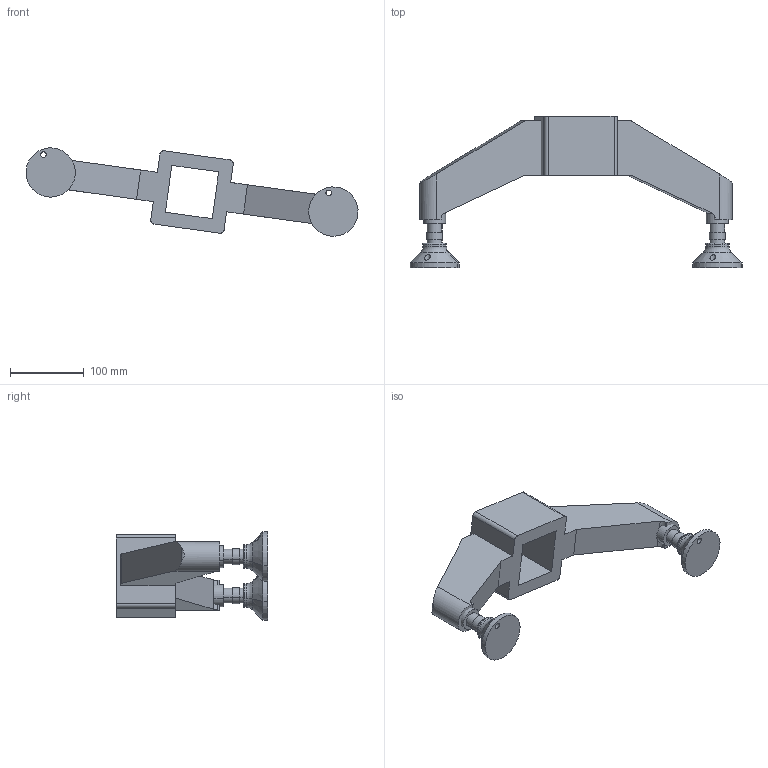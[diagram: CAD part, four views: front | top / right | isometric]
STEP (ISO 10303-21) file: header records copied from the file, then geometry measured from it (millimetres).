
FILE_DESCRIPTION (( 'STEP AP214' ), '1' );
FILE_NAME ('FBFT 64BP.step', '2017-04-05T08:02:53', ( '' ), ( '' ), 'SwSTEP 2.0', 'SolidWorks 2015', '' );
FILE_SCHEMA (( 'AUTOMOTIVE_DESIGN' ));
Length unit declared in the file: millimetre
Products named in the file (1): FBFT 64BP
Bounding box: 448.95 x 205 x 119.42 mm (x, y, z)
Volume: 1476602.5 mm3; surface area: 160323.9 mm2
Topology: 3 solids, 3 shells, 89 faces, 210 edges, 135 vertices
Faces by surface type: cylinder 41, plane 36, torus 8, cone 4
Entity records: 2805 total; most frequent: CARTESIAN_POINT 633, DIRECTION 465, ORIENTED_EDGE 420, EDGE_CURVE 210, AXIS2_PLACEMENT_3D 177, VERTEX_POINT 135, VECTOR 111, LINE 111
